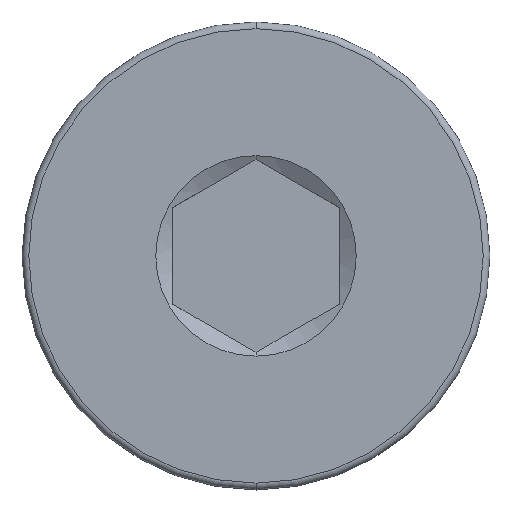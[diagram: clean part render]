
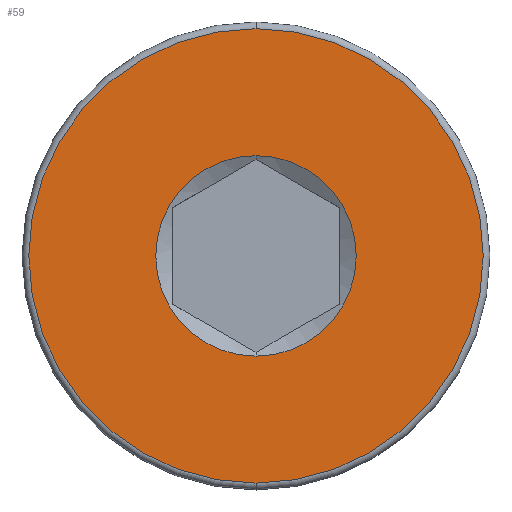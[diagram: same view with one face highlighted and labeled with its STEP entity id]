
A CAD part, top view. The second image highlights one B-rep face of the part: STEP entity #59.
In plain terms, the highlighted planar face has unit normal (0, 0, 1).
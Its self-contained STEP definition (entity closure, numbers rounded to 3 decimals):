
#27 = CIRCLE ( 'NONE', #36, 6.8 ) ;
#36 = AXIS2_PLACEMENT_3D ( 'NONE', #857, #345, #618 ) ;
#59 = ADVANCED_FACE ( 'NONE', ( #628, #101 ), #554, .F. ) ;
#72 = AXIS2_PLACEMENT_3D ( 'NONE', #170, #285, #721 ) ;
#101 = FACE_OUTER_BOUND ( 'NONE', #495, .T. ) ;
#106 = CARTESIAN_POINT ( 'NONE',  ( 0., 0., 1.732 ) ) ;
#114 = EDGE_CURVE ( 'NONE', #816, #278, #572, .T. ) ;
#170 = CARTESIAN_POINT ( 'NONE',  ( 0., 0., 1.732 ) ) ;
#278 = VERTEX_POINT ( 'NONE', #846 ) ;
#280 = CARTESIAN_POINT ( 'NONE',  ( 0., -6.8, 1.732 ) ) ;
#285 = DIRECTION ( 'NONE',  ( 0., 0., 1. ) ) ;
#305 = DIRECTION ( 'NONE',  ( 0., 0., -1. ) ) ;
#321 = AXIS2_PLACEMENT_3D ( 'NONE', #106, #424, #481 ) ;
#324 = EDGE_CURVE ( 'NONE', #278, #816, #459, .T. ) ;
#345 = DIRECTION ( 'NONE',  ( 0., 0., 1. ) ) ;
#375 = ORIENTED_EDGE ( 'NONE', *, *, #772, .T. ) ;
#387 = DIRECTION ( 'NONE',  ( 0., 0., 1. ) ) ;
#399 = CIRCLE ( 'NONE', #72, 6.8 ) ;
#413 = AXIS2_PLACEMENT_3D ( 'NONE', #783, #387, #852 ) ;
#414 = VERTEX_POINT ( 'NONE', #858 ) ;
#419 = ORIENTED_EDGE ( 'NONE', *, *, #836, .T. ) ;
#424 = DIRECTION ( 'NONE',  ( 0., 0., 1. ) ) ;
#451 = EDGE_LOOP ( 'NONE', ( #687, #460 ) ) ;
#459 = CIRCLE ( 'NONE', #413, 3. ) ;
#460 = ORIENTED_EDGE ( 'NONE', *, *, #324, .F. ) ;
#481 = DIRECTION ( 'NONE',  ( 0., -1., 0. ) ) ;
#495 = EDGE_LOOP ( 'NONE', ( #375, #419 ) ) ;
#554 = PLANE ( 'NONE',  #641 ) ;
#572 = CIRCLE ( 'NONE', #321, 3. ) ;
#618 = DIRECTION ( 'NONE',  ( 0., -1., 0. ) ) ;
#628 = FACE_BOUND ( 'NONE', #451, .T. ) ;
#641 = AXIS2_PLACEMENT_3D ( 'NONE', #761, #305, #689 ) ;
#687 = ORIENTED_EDGE ( 'NONE', *, *, #114, .F. ) ;
#689 = DIRECTION ( 'NONE',  ( 0., 1., 0. ) ) ;
#721 = DIRECTION ( 'NONE',  ( 0., -1., 0. ) ) ;
#761 = CARTESIAN_POINT ( 'NONE',  ( 0., 3., 1.732 ) ) ;
#772 = EDGE_CURVE ( 'NONE', #808, #414, #399, .T. ) ;
#783 = CARTESIAN_POINT ( 'NONE',  ( 0., 0., 1.732 ) ) ;
#808 = VERTEX_POINT ( 'NONE', #280 ) ;
#816 = VERTEX_POINT ( 'NONE', #859 ) ;
#836 = EDGE_CURVE ( 'NONE', #414, #808, #27, .T. ) ;
#846 = CARTESIAN_POINT ( 'NONE',  ( 0., 3., 1.732 ) ) ;
#852 = DIRECTION ( 'NONE',  ( 0., -1., 0. ) ) ;
#857 = CARTESIAN_POINT ( 'NONE',  ( 0., 0., 1.732 ) ) ;
#858 = CARTESIAN_POINT ( 'NONE',  ( 0., 6.8, 1.732 ) ) ;
#859 = CARTESIAN_POINT ( 'NONE',  ( 0., -3., 1.732 ) ) ;
